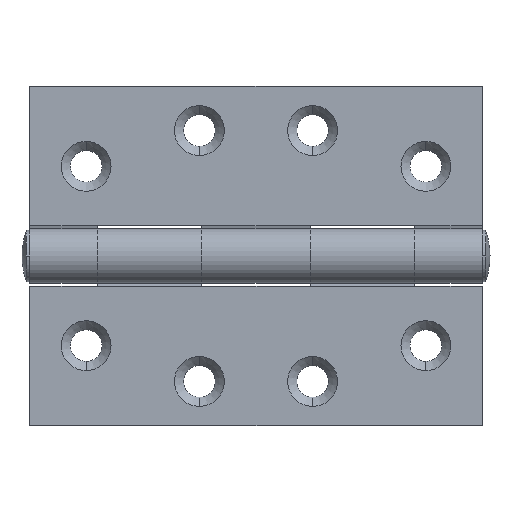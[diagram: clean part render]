
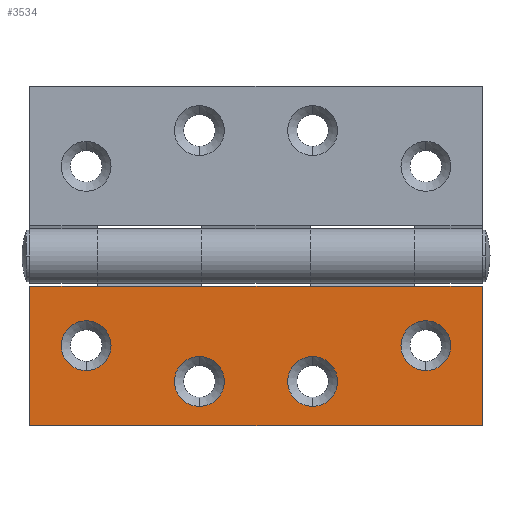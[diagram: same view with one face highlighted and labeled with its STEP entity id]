
A CAD part, left-side view. The second image highlights one B-rep face of the part: STEP entity #3534.
In plain terms, the highlighted planar face has unit normal (-1, 0, 0) as drawn and (0, 1, 0) by its records, which use the part's own axes.
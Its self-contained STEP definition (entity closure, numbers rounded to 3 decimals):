
#32 = ORIENTED_EDGE ( 'NONE', *, *, #3151, .T. ) ;
#45 = ORIENTED_EDGE ( 'NONE', *, *, #1644, .T. ) ;
#50 = DIRECTION ( 'NONE',  ( 0., -1., 0. ) ) ;
#59 = PLANE ( 'NONE',  #2496 ) ;
#60 = EDGE_CURVE ( 'NONE', #763, #317, #2722, .T. ) ;
#101 = CARTESIAN_POINT ( 'NONE',  ( -37.5, 0., -7.67 ) ) ;
#128 = CARTESIAN_POINT ( 'NONE',  ( 12.5, 0., -15.57 ) ) ;
#145 = CARTESIAN_POINT ( 'NONE',  ( 37.5, 0., -13.17 ) ) ;
#156 = DIRECTION ( 'NONE',  ( 0., 0., 1. ) ) ;
#184 = LINE ( 'NONE', #248, #2580 ) ;
#195 = CARTESIAN_POINT ( 'NONE',  ( -37.5, 0., -13.17 ) ) ;
#222 = DIRECTION ( 'NONE',  ( -1., 0., 0. ) ) ;
#235 = LINE ( 'NONE', #3704, #2492 ) ;
#248 = CARTESIAN_POINT ( 'NONE',  ( 50., 0., 0. ) ) ;
#277 = ORIENTED_EDGE ( 'NONE', *, *, #2955, .T. ) ;
#317 = VERTEX_POINT ( 'NONE', #3850 ) ;
#321 = CARTESIAN_POINT ( 'NONE',  ( 12., 0., 0. ) ) ;
#328 = EDGE_CURVE ( 'NONE', #3576, #1493, #1596, .T. ) ;
#372 = LINE ( 'NONE', #2490, #1814 ) ;
#440 = DIRECTION ( 'NONE',  ( 0., -1., 0. ) ) ;
#503 = ORIENTED_EDGE ( 'NONE', *, *, #1038, .T. ) ;
#515 = VERTEX_POINT ( 'NONE', #101 ) ;
#589 = EDGE_LOOP ( 'NONE', ( #984, #32 ) ) ;
#605 = DIRECTION ( 'NONE',  ( 0., 0., 1. ) ) ;
#615 = DIRECTION ( 'NONE',  ( -1., 0., 0. ) ) ;
#621 = EDGE_CURVE ( 'NONE', #1762, #1998, #235, .T. ) ;
#705 = CARTESIAN_POINT ( 'NONE',  ( 50., 0., -30.87 ) ) ;
#741 = VERTEX_POINT ( 'NONE', #1961 ) ;
#763 = VERTEX_POINT ( 'NONE', #2504 ) ;
#765 = CARTESIAN_POINT ( 'NONE',  ( -12.5, 0., -26.57 ) ) ;
#774 = FACE_BOUND ( 'NONE', #589, .T. ) ;
#890 = CARTESIAN_POINT ( 'NONE',  ( 50., 0., 0. ) ) ;
#897 = CIRCLE ( 'NONE', #2473, 5.5 ) ;
#930 = FACE_BOUND ( 'NONE', #2863, .T. ) ;
#984 = ORIENTED_EDGE ( 'NONE', *, *, #328, .T. ) ;
#1006 = VERTEX_POINT ( 'NONE', #2123 ) ;
#1010 = CARTESIAN_POINT ( 'NONE',  ( -37.5, 0., -13.17 ) ) ;
#1012 = DIRECTION ( 'NONE',  ( -1., 0., 0. ) ) ;
#1021 = DIRECTION ( 'NONE',  ( -1., 0., 0. ) ) ;
#1038 = EDGE_CURVE ( 'NONE', #317, #763, #2009, .T. ) ;
#1061 = CARTESIAN_POINT ( 'NONE',  ( -50., 0., 0. ) ) ;
#1064 = FACE_BOUND ( 'NONE', #2095, .T. ) ;
#1094 = VECTOR ( 'NONE', #2829, 1000. ) ;
#1127 = CIRCLE ( 'NONE', #2872, 5.5 ) ;
#1192 = CARTESIAN_POINT ( 'NONE',  ( -37.5, 0., -18.67 ) ) ;
#1267 = CARTESIAN_POINT ( 'NONE',  ( -12.5, 0., -21.07 ) ) ;
#1294 = ORIENTED_EDGE ( 'NONE', *, *, #3377, .T. ) ;
#1300 = AXIS2_PLACEMENT_3D ( 'NONE', #195, #2323, #3450 ) ;
#1394 = CARTESIAN_POINT ( 'NONE',  ( 50., 0., 0. ) ) ;
#1408 = AXIS2_PLACEMENT_3D ( 'NONE', #145, #3737, #1955 ) ;
#1421 = VERTEX_POINT ( 'NONE', #321 ) ;
#1488 = CIRCLE ( 'NONE', #1522, 5.5 ) ;
#1493 = VERTEX_POINT ( 'NONE', #3653 ) ;
#1522 = AXIS2_PLACEMENT_3D ( 'NONE', #1267, #2742, #3069 ) ;
#1567 = CARTESIAN_POINT ( 'NONE',  ( 37.5, 0., -13.17 ) ) ;
#1596 = CIRCLE ( 'NONE', #1924, 5.5 ) ;
#1607 = DIRECTION ( 'NONE',  ( 0., 0., 1. ) ) ;
#1626 = ORIENTED_EDGE ( 'NONE', *, *, #3846, .T. ) ;
#1644 = EDGE_CURVE ( 'NONE', #2481, #515, #897, .T. ) ;
#1655 = CARTESIAN_POINT ( 'NONE',  ( -12.5, 0., -15.57 ) ) ;
#1656 = AXIS2_PLACEMENT_3D ( 'NONE', #3164, #440, #1607 ) ;
#1674 = VERTEX_POINT ( 'NONE', #705 ) ;
#1684 = CIRCLE ( 'NONE', #1300, 5.5 ) ;
#1690 = CARTESIAN_POINT ( 'NONE',  ( -12.5, 0., -21.07 ) ) ;
#1716 = LINE ( 'NONE', #1394, #3715 ) ;
#1762 = VERTEX_POINT ( 'NONE', #1061 ) ;
#1789 = LINE ( 'NONE', #2477, #1094 ) ;
#1794 = ORIENTED_EDGE ( 'NONE', *, *, #621, .F. ) ;
#1814 = VECTOR ( 'NONE', #1012, 1000. ) ;
#1889 = ORIENTED_EDGE ( 'NONE', *, *, #2681, .T. ) ;
#1895 = VECTOR ( 'NONE', #615, 1000. ) ;
#1924 = AXIS2_PLACEMENT_3D ( 'NONE', #3542, #3565, #3840 ) ;
#1927 = CARTESIAN_POINT ( 'NONE',  ( -35., 0., 0. ) ) ;
#1955 = DIRECTION ( 'NONE',  ( 0., 0., 1. ) ) ;
#1961 = CARTESIAN_POINT ( 'NONE',  ( 35., 0., 0. ) ) ;
#1974 = DIRECTION ( 'NONE',  ( 0., -1., 0. ) ) ;
#1996 = CARTESIAN_POINT ( 'NONE',  ( 50., 0., -30.87 ) ) ;
#1998 = VERTEX_POINT ( 'NONE', #2717 ) ;
#2009 = CIRCLE ( 'NONE', #2397, 5.5 ) ;
#2049 = ORIENTED_EDGE ( 'NONE', *, *, #3628, .F. ) ;
#2051 = ORIENTED_EDGE ( 'NONE', *, *, #2071, .F. ) ;
#2071 = EDGE_CURVE ( 'NONE', #2821, #1762, #2735, .T. ) ;
#2082 = CARTESIAN_POINT ( 'NONE',  ( -12., 0., 0. ) ) ;
#2085 = ORIENTED_EDGE ( 'NONE', *, *, #2402, .F. ) ;
#2095 = EDGE_LOOP ( 'NONE', ( #3636, #45 ) ) ;
#2097 = ORIENTED_EDGE ( 'NONE', *, *, #2459, .F. ) ;
#2123 = CARTESIAN_POINT ( 'NONE',  ( 50., 0., 0. ) ) ;
#2192 = ORIENTED_EDGE ( 'NONE', *, *, #2884, .F. ) ;
#2284 = VERTEX_POINT ( 'NONE', #765 ) ;
#2323 = DIRECTION ( 'NONE',  ( 0., -1., 0. ) ) ;
#2397 = AXIS2_PLACEMENT_3D ( 'NONE', #1567, #50, #3656 ) ;
#2402 = EDGE_CURVE ( 'NONE', #741, #1421, #1716, .T. ) ;
#2416 = DIRECTION ( 'NONE',  ( 0., 1., 0. ) ) ;
#2459 = EDGE_CURVE ( 'NONE', #1421, #3453, #3495, .T. ) ;
#2473 = AXIS2_PLACEMENT_3D ( 'NONE', #1010, #2524, #3442 ) ;
#2477 = CARTESIAN_POINT ( 'NONE',  ( 50., 0., 0. ) ) ;
#2481 = VERTEX_POINT ( 'NONE', #1192 ) ;
#2490 = CARTESIAN_POINT ( 'NONE',  ( 50., 0., 0. ) ) ;
#2492 = VECTOR ( 'NONE', #2593, 1000. ) ;
#2496 = AXIS2_PLACEMENT_3D ( 'NONE', #3633, #2416, #605 ) ;
#2504 = CARTESIAN_POINT ( 'NONE',  ( 37.5, 0., -7.67 ) ) ;
#2524 = DIRECTION ( 'NONE',  ( 0., -1., 0. ) ) ;
#2558 = VECTOR ( 'NONE', #222, 1000. ) ;
#2580 = VECTOR ( 'NONE', #2636, 1000. ) ;
#2593 = DIRECTION ( 'NONE',  ( 0., 0., -1. ) ) ;
#2636 = DIRECTION ( 'NONE',  ( 0., 0., -1. ) ) ;
#2654 = LINE ( 'NONE', #1996, #2558 ) ;
#2681 = EDGE_CURVE ( 'NONE', #2284, #2960, #1488, .T. ) ;
#2717 = CARTESIAN_POINT ( 'NONE',  ( -50., 0., -30.87 ) ) ;
#2722 = CIRCLE ( 'NONE', #1408, 5.5 ) ;
#2735 = LINE ( 'NONE', #3447, #3691 ) ;
#2742 = DIRECTION ( 'NONE',  ( 0., -1., 0. ) ) ;
#2821 = VERTEX_POINT ( 'NONE', #1927 ) ;
#2829 = DIRECTION ( 'NONE',  ( -1., 0., 0. ) ) ;
#2863 = EDGE_LOOP ( 'NONE', ( #3549, #503 ) ) ;
#2872 = AXIS2_PLACEMENT_3D ( 'NONE', #1690, #1974, #156 ) ;
#2884 = EDGE_CURVE ( 'NONE', #3453, #2821, #372, .T. ) ;
#2892 = EDGE_LOOP ( 'NONE', ( #1794, #2051, #2192, #2097, #2085, #2049, #1294, #1626 ) ) ;
#2955 = EDGE_CURVE ( 'NONE', #2960, #2284, #1127, .T. ) ;
#2960 = VERTEX_POINT ( 'NONE', #1655 ) ;
#3069 = DIRECTION ( 'NONE',  ( 0., 0., 1. ) ) ;
#3088 = FACE_OUTER_BOUND ( 'NONE', #2892, .T. ) ;
#3147 = CIRCLE ( 'NONE', #1656, 5.5 ) ;
#3151 = EDGE_CURVE ( 'NONE', #1493, #3576, #3147, .T. ) ;
#3164 = CARTESIAN_POINT ( 'NONE',  ( 12.5, 0., -21.07 ) ) ;
#3186 = FACE_BOUND ( 'NONE', #3781, .T. ) ;
#3202 = EDGE_CURVE ( 'NONE', #515, #2481, #1684, .T. ) ;
#3377 = EDGE_CURVE ( 'NONE', #1006, #1674, #184, .T. ) ;
#3442 = DIRECTION ( 'NONE',  ( 0., 0., 1. ) ) ;
#3447 = CARTESIAN_POINT ( 'NONE',  ( 50., 0., 0. ) ) ;
#3450 = DIRECTION ( 'NONE',  ( 0., 0., 1. ) ) ;
#3453 = VERTEX_POINT ( 'NONE', #2082 ) ;
#3495 = LINE ( 'NONE', #890, #1895 ) ;
#3534 = ADVANCED_FACE ( 'NONE', ( #930, #774, #3186, #1064, #3088 ), #59, .T. ) ;
#3542 = CARTESIAN_POINT ( 'NONE',  ( 12.5, 0., -21.07 ) ) ;
#3549 = ORIENTED_EDGE ( 'NONE', *, *, #60, .T. ) ;
#3565 = DIRECTION ( 'NONE',  ( 0., -1., 0. ) ) ;
#3571 = DIRECTION ( 'NONE',  ( -1., 0., 0. ) ) ;
#3576 = VERTEX_POINT ( 'NONE', #128 ) ;
#3628 = EDGE_CURVE ( 'NONE', #1006, #741, #1789, .T. ) ;
#3633 = CARTESIAN_POINT ( 'NONE',  ( 50., 0., 0. ) ) ;
#3636 = ORIENTED_EDGE ( 'NONE', *, *, #3202, .T. ) ;
#3653 = CARTESIAN_POINT ( 'NONE',  ( 12.5, 0., -26.57 ) ) ;
#3656 = DIRECTION ( 'NONE',  ( 0., 0., 1. ) ) ;
#3691 = VECTOR ( 'NONE', #1021, 1000. ) ;
#3704 = CARTESIAN_POINT ( 'NONE',  ( -50., 0., 0. ) ) ;
#3715 = VECTOR ( 'NONE', #3571, 1000. ) ;
#3737 = DIRECTION ( 'NONE',  ( 0., -1., 0. ) ) ;
#3781 = EDGE_LOOP ( 'NONE', ( #277, #1889 ) ) ;
#3840 = DIRECTION ( 'NONE',  ( 0., 0., 1. ) ) ;
#3846 = EDGE_CURVE ( 'NONE', #1674, #1998, #2654, .T. ) ;
#3850 = CARTESIAN_POINT ( 'NONE',  ( 37.5, 0., -18.67 ) ) ;
